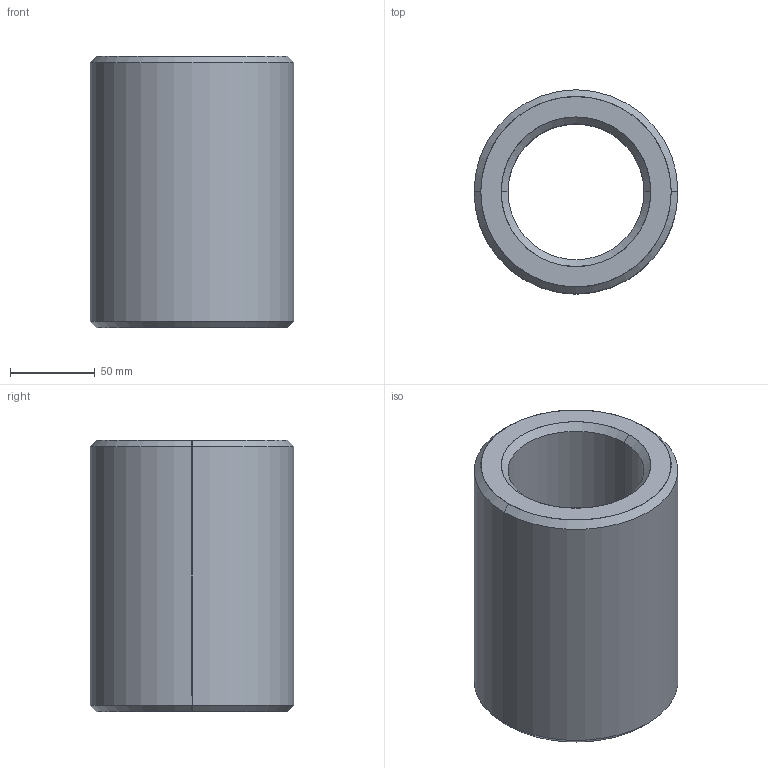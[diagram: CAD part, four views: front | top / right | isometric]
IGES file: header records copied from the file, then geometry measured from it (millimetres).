
Start section: SolidWorks IGES file using analytic representation for surfaces
Global section: file name: C:\Users\ianosborn\Desktop\L1330_v2\L1330_v2_20241024_IGES\L1330.L80-10.igs; native system: SolidWorks 2019; preprocessor: SolidWorks 2019; author: IanOsborn; date: 241024.102445; units: millimetre
Bounding box: 120 x 120 x 160 mm (x, y, z)
Surface area: 110152.9 mm2 (no closed solid volume)
Topology: 0 solids, 0 shells, 14 faces, 304 edges, 304 vertices
Faces by surface type: revolution 12, bspline 2
